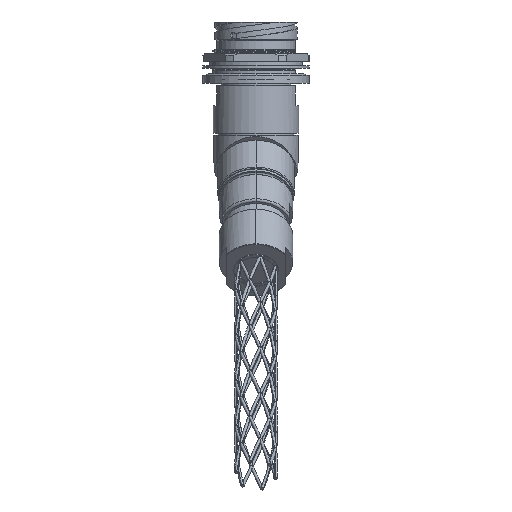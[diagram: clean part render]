
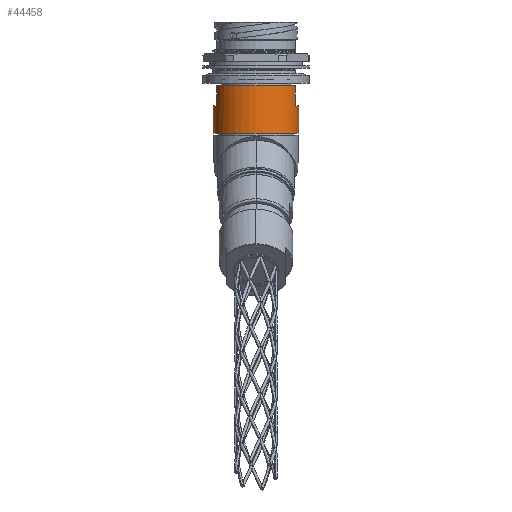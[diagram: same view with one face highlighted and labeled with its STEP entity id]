
A CAD part, front view. The second image highlights one B-rep face of the part: STEP entity #44458.
In plain terms, the highlighted cylindrical face has radius 20.447 mm (diameter 40.894 mm), a partial arc.
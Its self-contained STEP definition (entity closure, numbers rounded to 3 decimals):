
#1877 = FACE_OUTER_BOUND ( 'NONE', #57001, .T. ) ;
#2830 = CARTESIAN_POINT ( 'NONE',  ( 20.447, 0., -30.328 ) ) ;
#8160 = DIRECTION ( 'NONE',  ( 0., 0., -1. ) ) ;
#9410 = DIRECTION ( 'NONE',  ( 0., 0., 1. ) ) ;
#11079 = DIRECTION ( 'NONE',  ( 1., 0., 0. ) ) ;
#12337 = DIRECTION ( 'NONE',  ( 0., 0., 1. ) ) ;
#13346 = CARTESIAN_POINT ( 'NONE',  ( -20.447, 0., -53.01 ) ) ;
#13779 = CARTESIAN_POINT ( 'NONE',  ( 20.447, 0., -53.01 ) ) ;
#15684 = DIRECTION ( 'NONE',  ( 0., 0., 1. ) ) ;
#16800 = ORIENTED_EDGE ( 'NONE', *, *, #72732, .T. ) ;
#18997 = LINE ( 'NONE', #108582, #115012 ) ;
#19296 = CARTESIAN_POINT ( 'NONE',  ( -18.796, -8.049, -30.328 ) ) ;
#20727 = VERTEX_POINT ( 'NONE', #115844 ) ;
#22144 = ORIENTED_EDGE ( 'NONE', *, *, #111963, .T. ) ;
#23970 = VERTEX_POINT ( 'NONE', #13779 ) ;
#25709 = EDGE_CURVE ( 'NONE', #23970, #123072, #94242, .T. ) ;
#27153 = AXIS2_PLACEMENT_3D ( 'NONE', #101271, #12337, #90750 ) ;
#29677 = DIRECTION ( 'NONE',  ( 0., 0., -1. ) ) ;
#31399 = VECTOR ( 'NONE', #127255, 1000. ) ;
#32152 = CARTESIAN_POINT ( 'NONE',  ( 0., 0., -30.328 ) ) ;
#35571 = EDGE_CURVE ( 'NONE', #20727, #107705, #57535, .T. ) ;
#39524 = VECTOR ( 'NONE', #9410, 1000. ) ;
#42984 = DIRECTION ( 'NONE',  ( 0., 0., -1. ) ) ;
#43136 = CIRCLE ( 'NONE', #104176, 20.447 ) ;
#43998 = CIRCLE ( 'NONE', #27153, 20.447 ) ;
#44458 = ADVANCED_FACE ( 'NONE', ( #1877 ), #101958, .T. ) ;
#45472 = ORIENTED_EDGE ( 'NONE', *, *, #35571, .F. ) ;
#49289 = DIRECTION ( 'NONE',  ( 0., 0., -1. ) ) ;
#49428 = CARTESIAN_POINT ( 'NONE',  ( 0., 0., -30.328 ) ) ;
#50713 = EDGE_CURVE ( 'NONE', #83600, #20727, #43136, .T. ) ;
#51493 = AXIS2_PLACEMENT_3D ( 'NONE', #32152, #81568, #11079 ) ;
#53121 = ORIENTED_EDGE ( 'NONE', *, *, #25709, .F. ) ;
#55130 = CARTESIAN_POINT ( 'NONE',  ( -20.447, 0., -39.853 ) ) ;
#55211 = CARTESIAN_POINT ( 'NONE',  ( 20.447, 0., -39.853 ) ) ;
#55714 = ORIENTED_EDGE ( 'NONE', *, *, #110591, .F. ) ;
#56129 = LINE ( 'NONE', #117356, #31399 ) ;
#57001 = EDGE_LOOP ( 'NONE', ( #116046, #22144, #53121, #92622, #55714, #128606, #16800, #45472 ) ) ;
#57535 = LINE ( 'NONE', #19296, #39524 ) ;
#60496 = AXIS2_PLACEMENT_3D ( 'NONE', #49428, #29677, #69868 ) ;
#65755 = DIRECTION ( 'NONE',  ( 0., 1., 0. ) ) ;
#67016 = EDGE_CURVE ( 'NONE', #96651, #101354, #18997, .T. ) ;
#67047 = CARTESIAN_POINT ( 'NONE',  ( 0., 0., -39.853 ) ) ;
#69868 = DIRECTION ( 'NONE',  ( 1., 0., 0. ) ) ;
#72732 = EDGE_CURVE ( 'NONE', #96651, #107705, #75186, .T. ) ;
#75186 = CIRCLE ( 'NONE', #60496, 20.447 ) ;
#81568 = DIRECTION ( 'NONE',  ( 0., 0., -1. ) ) ;
#83600 = VERTEX_POINT ( 'NONE', #55130 ) ;
#86958 = CARTESIAN_POINT ( 'NONE',  ( 18.796, -8.049, -39.853 ) ) ;
#90750 = DIRECTION ( 'NONE',  ( 1., 0., 0. ) ) ;
#92622 = ORIENTED_EDGE ( 'NONE', *, *, #123255, .F. ) ;
#93698 = LINE ( 'NONE', #2830, #122031 ) ;
#94242 = CIRCLE ( 'NONE', #108971, 20.447 ) ;
#96651 = VERTEX_POINT ( 'NONE', #108000 ) ;
#101271 = CARTESIAN_POINT ( 'NONE',  ( 0., 0., -39.853 ) ) ;
#101354 = VERTEX_POINT ( 'NONE', #86958 ) ;
#101958 = CYLINDRICAL_SURFACE ( 'NONE', #51493, 20.447 ) ;
#104176 = AXIS2_PLACEMENT_3D ( 'NONE', #67047, #15684, #65755 ) ;
#107705 = VERTEX_POINT ( 'NONE', #113118 ) ;
#108000 = CARTESIAN_POINT ( 'NONE',  ( 18.796, -8.049, -30.328 ) ) ;
#108263 = DIRECTION ( 'NONE',  ( 1., 0., 0. ) ) ;
#108582 = CARTESIAN_POINT ( 'NONE',  ( 18.796, -8.049, -30.328 ) ) ;
#108971 = AXIS2_PLACEMENT_3D ( 'NONE', #128042, #8160, #108263 ) ;
#110591 = EDGE_CURVE ( 'NONE', #101354, #114355, #43998, .T. ) ;
#111963 = EDGE_CURVE ( 'NONE', #83600, #123072, #56129, .T. ) ;
#113118 = CARTESIAN_POINT ( 'NONE',  ( -18.796, -8.049, -30.328 ) ) ;
#114355 = VERTEX_POINT ( 'NONE', #55211 ) ;
#115012 = VECTOR ( 'NONE', #49289, 1000. ) ;
#115844 = CARTESIAN_POINT ( 'NONE',  ( -18.796, -8.049, -39.853 ) ) ;
#116046 = ORIENTED_EDGE ( 'NONE', *, *, #50713, .F. ) ;
#117356 = CARTESIAN_POINT ( 'NONE',  ( -20.447, 0., -30.328 ) ) ;
#122031 = VECTOR ( 'NONE', #42984, 1000. ) ;
#123072 = VERTEX_POINT ( 'NONE', #13346 ) ;
#123255 = EDGE_CURVE ( 'NONE', #114355, #23970, #93698, .T. ) ;
#127255 = DIRECTION ( 'NONE',  ( 0., 0., -1. ) ) ;
#128042 = CARTESIAN_POINT ( 'NONE',  ( 0., 0., -53.01 ) ) ;
#128606 = ORIENTED_EDGE ( 'NONE', *, *, #67016, .F. ) ;
